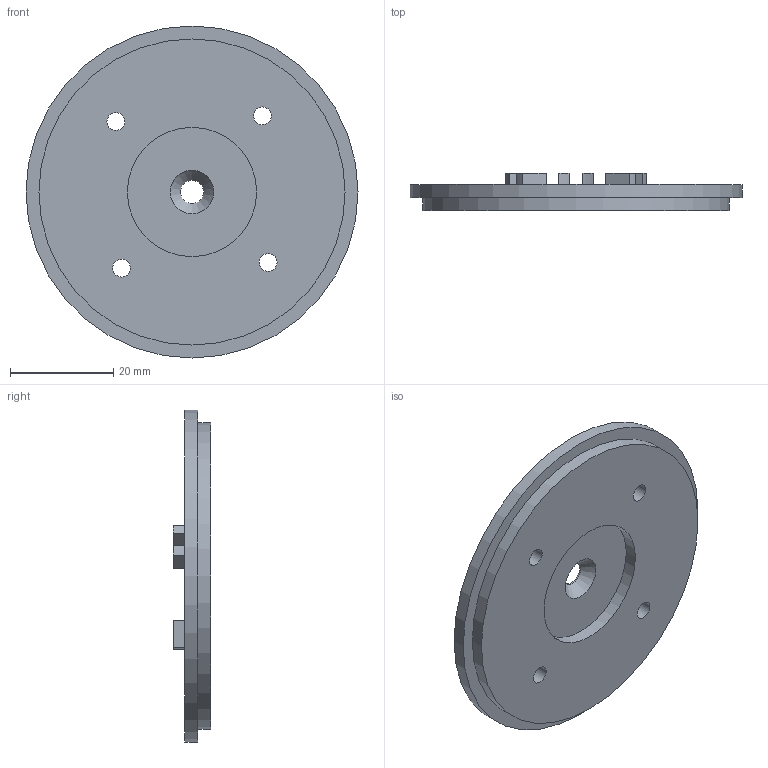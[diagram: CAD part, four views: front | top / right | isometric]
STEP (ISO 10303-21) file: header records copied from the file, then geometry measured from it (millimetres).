
FILE_DESCRIPTION(/* description */ (''),/* implementation_level */ '2;1');
FILE_NAME(/* name */ 'EncoderSide InnerCoupler_.step',/* time_stamp */ '2024-08-31T16:23:06-04:00',/* author */ (''),/* organization */ (''),/* preprocessor_version */ 'ST-DEVELOPER v20',/* originating_system */ 'Autodesk Translation Framework v13.14.0.145',/* authorisation */ '');
FILE_SCHEMA (('AUTOMOTIVE_DESIGN { 1 0 10303 214 3 1 1 }'));
Length unit declared in the file: millimetre
Products named in the file (1): EncoderSide_InnerCoupler
Bounding box: 64.25 x 7.2 x 64.25 mm (x, y, z)
Volume: 13638.5 mm3; surface area: 7974.9 mm2
Topology: 1 solids, 1 shells, 43 faces, 98 edges, 65 vertices
Faces by surface type: plane 22, cylinder 20, cone 1
Full cylindrical faces by diameter (mm): 3.454 x4, 4.496 x1, 25 x1, 59.25 x1, 64.25 x1
Entity records: 1278 total; most frequent: DIRECTION 227, CARTESIAN_POINT 207, ORIENTED_EDGE 196, EDGE_CURVE 98, AXIS2_PLACEMENT_3D 85, VERTEX_POINT 65, EDGE_LOOP 61, LINE 57
